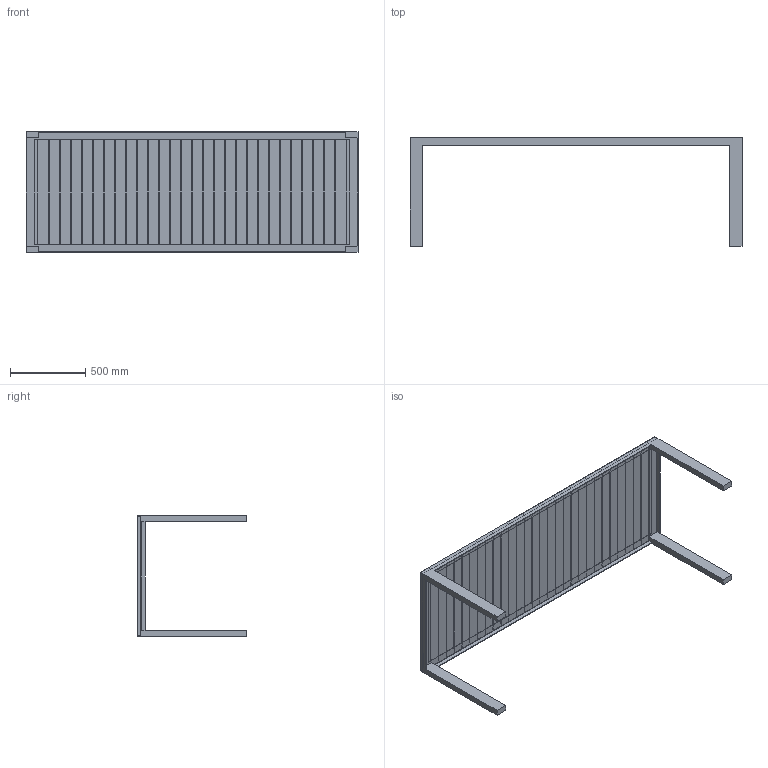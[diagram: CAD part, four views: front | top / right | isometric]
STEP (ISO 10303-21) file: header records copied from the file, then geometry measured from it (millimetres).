
FILE_DESCRIPTION(/* description */ (''),/* implementation_level */ '2;1');
FILE_NAME(/* name */ 'C:\INVENTOR\Workspace\# ARKITEKT FILER\Garden Dinner Table\Garden Dinner Table 220.stp',/* time_stamp */ '2020-06-22T14:12:58+02:00',/* author */ ('Röshults'),/* organization */ (''),/* preprocessor_version */ 'ST-DEVELOPER v17.2',/* originating_system */ 'Autodesk Inventor 2019',/* authorisation */ '');
FILE_SCHEMA (('AUTOMOTIVE_DESIGN { 1 0 10303 214 3 1 1 }'));
Length unit declared in the file: millimetre
Products named in the file (1): Garden Dinner Table 220
Bounding box: 2200 x 720 x 800 mm (x, y, z)
Volume: 45870600 mm3; surface area: 5718500 mm2
Topology: 1 solids, 1 shells, 215 faces, 688 edges, 420 vertices
Faces by surface type: plane 215
Entity records: 7618 total; most frequent: ORIENTED_EDGE 1376, CARTESIAN_POINT 1324, DIRECTION 1120, LINE 688, VECTOR 688, EDGE_CURVE 688, VERTEX_POINT 420, EDGE_LOOP 218
